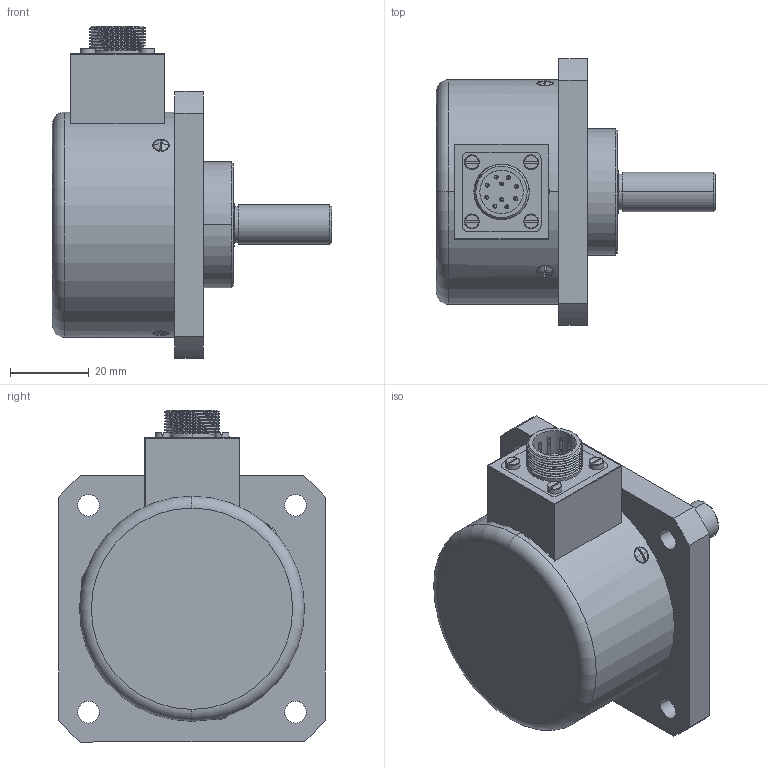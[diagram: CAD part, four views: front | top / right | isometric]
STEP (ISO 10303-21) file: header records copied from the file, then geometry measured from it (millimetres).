
FILE_DESCRIPTION (( 'STEP AP214' ), '1' );
FILE_NAME ('ﾋﾈﾐ-158ﾔ.STEP', '2017-05-23T08:54:23', ( '' ), ( '' ), 'SwSTEP 2.0', 'SolidWorks 2013', '' );
FILE_SCHEMA (( 'AUTOMOTIVE_DESIGN' ));
Length unit declared in the file: millimetre
Products named in the file (1): ﾋﾈﾐ-158ﾔ
Bounding box: 70.7 x 67.5 x 84.08 mm (x, y, z)
Surface area: 23170.8 mm2 (no closed solid volume)
Topology: 0 solids, 33 shells, 226 faces, 687 edges, 479 vertices
Faces by surface type: cylinder 87, plane 59, torus 38, cone 22, sphere 12, bspline 8
Entity records: 14253 total; most frequent: CARTESIAN_POINT 5688, DIRECTION 1331, ORIENTED_EDGE 1136, EDGE_CURVE 687, AXIS2_PLACEMENT_3D 571, VERTEX_POINT 479, CIRCLE 352, EDGE_LOOP 263
